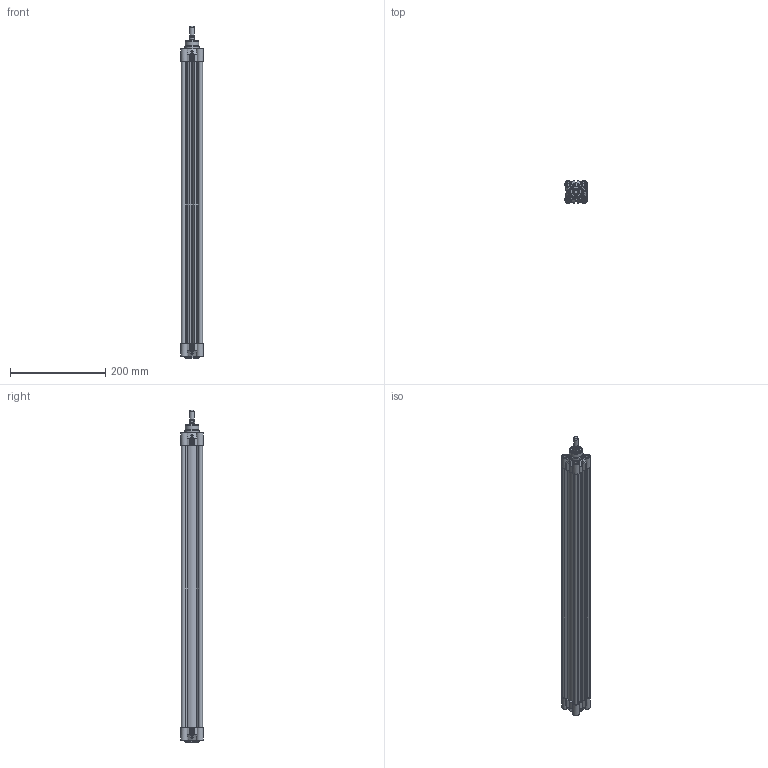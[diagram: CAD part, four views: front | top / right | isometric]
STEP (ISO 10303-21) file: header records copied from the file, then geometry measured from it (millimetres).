
FILE_DESCRIPTION(/* description */ ('CILINDRO D.E. MAGNETICO AMMORTIZZATO ISO 15552'),/* implementation_level */ '2;1');
FILE_NAME(/* name */ 'T:\Archivio Inventor\- 00 NUOVI STP PER SITO CON STELO CHE SI MUOVE\SERIE H - U\SERIE HDM\HDM032-TUBO NUOVO\HDM032.550.GS.M.stp',/* time_stamp */ '2018-07-25T14:29:36+02:00',/* author */ ('carlo.corazza'),/* organization */ (''),/* preprocessor_version */ 'ST-DEVELOPER v16.5',/* originating_system */ 'Autodesk Inventor 2017',/* authorisation */ '');
FILE_SCHEMA (('AUTOMOTIVE_DESIGN { 1 0 10303 214 3 1 1 }'));
Length unit declared in the file: millimetre
Products named in the file (5): HDM032.550.GS.M; TP; STELO-550; TA; CORPO-550
Assembly tree (4 placements, depth 2):
  HDM032.550.GS.M
    TP
    STELO-550
    TA
    CORPO-550
Bounding box: 47 x 47 x 696 mm (x, y, z)
Volume: 462192.4 mm3; surface area: 344487.9 mm2
Topology: 4 solids, 18 shells, 969 faces, 2356 edges, 1494 vertices
Faces by surface type: plane 330, cylinder 260, bspline 190, cone 86, torus 83, sphere 20
Full cylindrical faces by diameter (mm): 2 x2, 2.1 x2, 4 x2, 4.5 x2, 4.917 x8, 6 x8, 6.2 x8, 6.3 x4, 7 x2, 7.8 x4, 7.9 x3, 8 x4, 8.566 x2, 10 x9, 10.3 x8, 11.6 x1, 12 x1, 12.8 x1, 12.847 x1, 16 x1, 17 x2, 22 x3, 28 x1, 30 x2, 32 x1
Entity records: 31186 total; most frequent: CARTESIAN_POINT 9171, ORIENTED_EDGE 4162, DIRECTION 4048, EDGE_CURVE 2081, AXIS2_PLACEMENT_3D 1569, VERTEX_POINT 1436, EDGE_LOOP 1302, FACE_OUTER_BOUND 969
